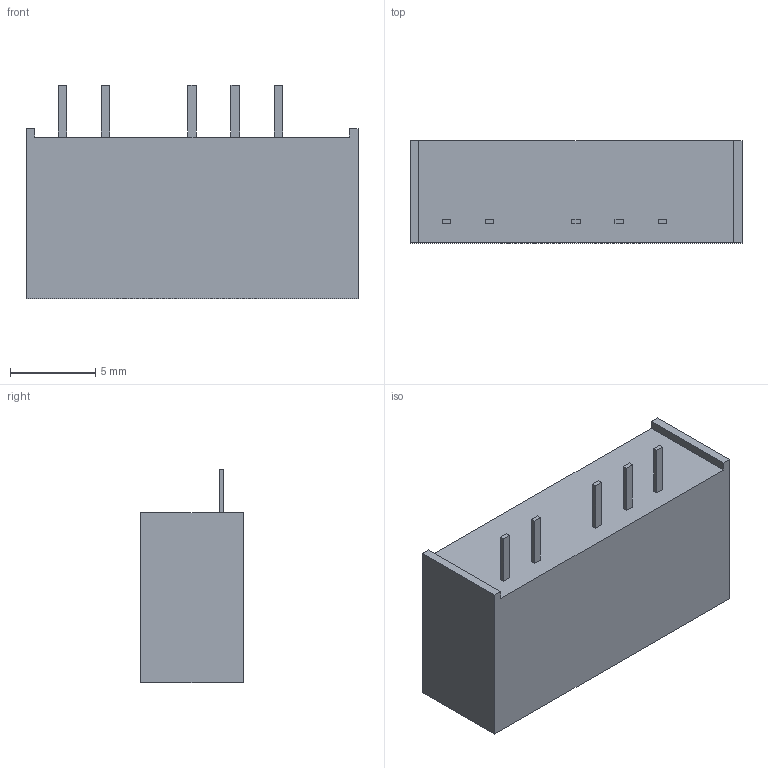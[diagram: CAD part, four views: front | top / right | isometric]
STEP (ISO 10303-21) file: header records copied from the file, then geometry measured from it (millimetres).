
FILE_DESCRIPTION(/* description */ ('Unknown'),/* implementation_level */ '2;1');
FILE_NAME(/* name */ 'IA(S)(6.0)',/* time_stamp */ '2017-11-28T13:50:12+08:00',/* author */ ('Unknown'),/* organization */ ('Unknown'),/* preprocessor_version */ 'ST-DEVELOPER v16.7',/* originating_system */ 'DEX',/* authorisation */ $);
FILE_SCHEMA (('AUTOMOTIVE_DESIGN {1 0 10303 214 3 1 1}'));
Length unit declared in the file: millimetre
Products named in the file (1): IA(S)(6.0)
Bounding box: 19.5 x 6 x 12.55 mm (x, y, z)
Volume: 1116.4 mm3; surface area: 754.4 mm2
Topology: 1 solids, 1 shells, 35 faces, 84 edges, 56 vertices
Faces by surface type: plane 35
Entity records: 1028 total; most frequent: CARTESIAN_POINT 176, ORIENTED_EDGE 168, DIRECTION 156, EDGE_CURVE 84, LINE 84, VECTOR 84, VERTEX_POINT 56, EDGE_LOOP 40
